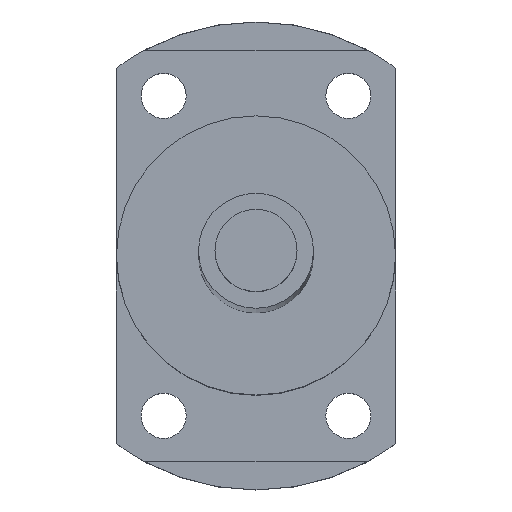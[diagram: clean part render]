
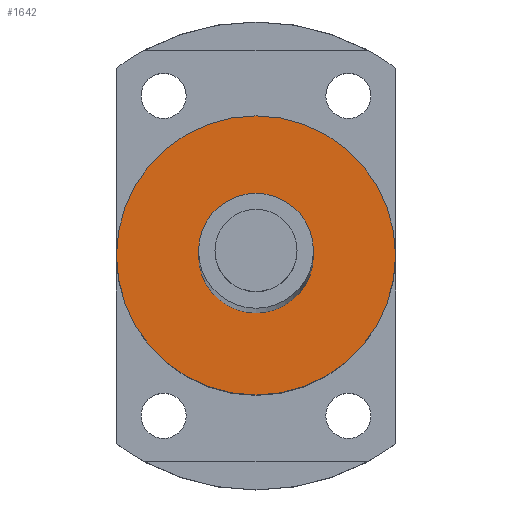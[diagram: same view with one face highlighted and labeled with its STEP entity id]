
A CAD part, top view. The second image highlights one B-rep face of the part: STEP entity #1642.
In plain terms, the highlighted planar face has unit normal (0, 0, 1).
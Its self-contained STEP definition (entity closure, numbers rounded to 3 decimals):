
#507=CARTESIAN_POINT('',(0.,0.,424.5));
#508=DIRECTION('',(0.,0.,1.));
#509=DIRECTION('',(1.,0.,0.));
#510=AXIS2_PLACEMENT_3D('',#507,#508,#509);
#512=CARTESIAN_POINT('',(0.,0.,424.5));
#513=DIRECTION('',(0.,0.,1.));
#514=DIRECTION('',(-1.,0.,0.));
#515=AXIS2_PLACEMENT_3D('',#512,#513,#514);
#517=CARTESIAN_POINT('',(0.,0.,424.5));
#518=DIRECTION('',(0.,0.,1.));
#519=DIRECTION('',(1.,0.,0.));
#520=AXIS2_PLACEMENT_3D('',#517,#518,#519);
#522=CARTESIAN_POINT('',(0.,0.,424.5));
#523=DIRECTION('',(0.,0.,1.));
#524=DIRECTION('',(-1.,0.,0.));
#525=AXIS2_PLACEMENT_3D('',#522,#523,#524);
#749=CARTESIAN_POINT('',(17.,0.,424.5));
#750=CARTESIAN_POINT('',(-17.,0.,424.5));
#751=VERTEX_POINT('',#749);
#752=VERTEX_POINT('',#750);
#761=CARTESIAN_POINT('',(7.,0.,424.5));
#762=CARTESIAN_POINT('',(-7.,0.,424.5));
#763=VERTEX_POINT('',#761);
#764=VERTEX_POINT('',#762);
#1627=CARTESIAN_POINT('',(0.,0.,424.5));
#1628=DIRECTION('',(0.,0.,1.));
#1629=DIRECTION('',(1.,0.,0.));
#1630=AXIS2_PLACEMENT_3D('',#1627,#1628,#1629);
#1631=PLANE('',#1630);
#1632=ORIENTED_EDGE('',*,*,#1607,.F.);
#1633=ORIENTED_EDGE('',*,*,#1621,.F.);
#1634=EDGE_LOOP('',(#1632,#1633));
#1635=FACE_OUTER_BOUND('',#1634,.F.);
#1637=ORIENTED_EDGE('',*,*,#1636,.T.);
#1639=ORIENTED_EDGE('',*,*,#1638,.T.);
#1640=EDGE_LOOP('',(#1637,#1639));
#1641=FACE_BOUND('',#1640,.F.);
#1642=ADVANCED_FACE('',(#1635,#1641),#1631,.T.);
#511=CIRCLE('',#510,17.);
#516=CIRCLE('',#515,17.);
#521=CIRCLE('',#520,7.);
#526=CIRCLE('',#525,7.);
#1607=EDGE_CURVE('',#751,#752,#511,.T.);
#1621=EDGE_CURVE('',#752,#751,#516,.T.);
#1636=EDGE_CURVE('',#763,#764,#521,.T.);
#1638=EDGE_CURVE('',#764,#763,#526,.T.);
